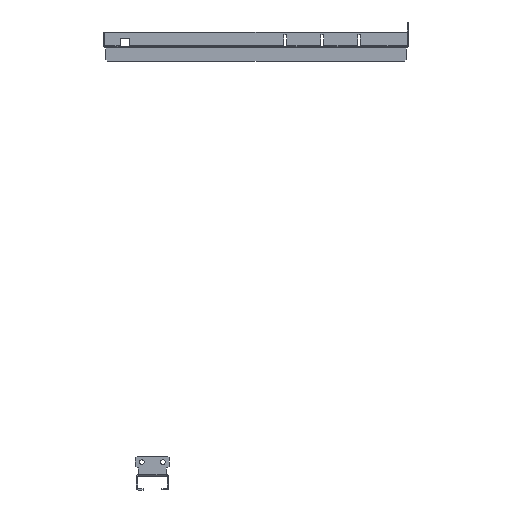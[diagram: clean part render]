
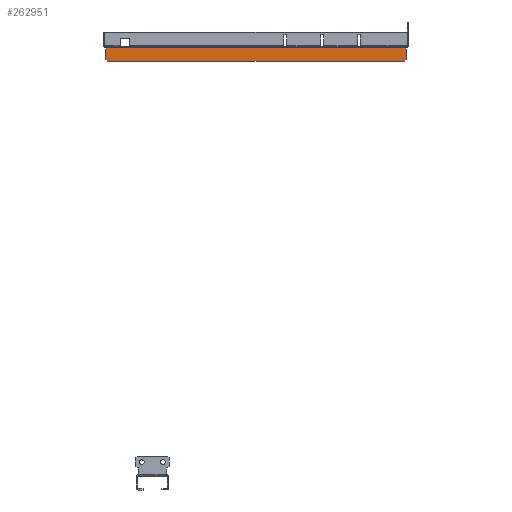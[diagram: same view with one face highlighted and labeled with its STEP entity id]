
A CAD part, front view. The second image highlights one B-rep face of the part: STEP entity #262951.
In plain terms, the highlighted planar face has unit normal (0, -1, 0).
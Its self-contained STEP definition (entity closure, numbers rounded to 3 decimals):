
#173121=CARTESIAN_POINT(' ',(-177.,844.5,-16.));
#173122=VERTEX_POINT(' ',#173121);
#173136=CARTESIAN_POINT(' ',(-177.,844.5,-16.));
#173141=DIRECTION(' ',(0.,0.,1.));
#173146=VECTOR(' ',#173141,1.);
#173151=LINE('',#173136,#173146);
#173156=CARTESIAN_POINT(' ',(-177.,844.5,-2.1));
#173157=VERTEX_POINT(' ',#173156);
#173161=EDGE_CURVE(' ',#173122,#173157,#173151,.T.);
#173346=CARTESIAN_POINT(' ',(-177.,844.5,-2.1));
#173351=DIRECTION(' ',(1.,0.,0.));
#173356=VECTOR(' ',#173351,1.);
#173361=LINE('',#173346,#173356);
#173366=CARTESIAN_POINT(' ',(177.,844.5,-2.1));
#173367=VERTEX_POINT(' ',#173366);
#173371=EDGE_CURVE(' ',#173157,#173367,#173361,.T.);
#173466=CARTESIAN_POINT(' ',(177.,844.5,-2.1));
#173471=DIRECTION(' ',(0.,0.,-1.));
#173476=VECTOR(' ',#173471,1.);
#173481=LINE('',#173466,#173476);
#173486=CARTESIAN_POINT(' ',(177.,844.5,-16.));
#173487=VERTEX_POINT(' ',#173486);
#173491=EDGE_CURVE(' ',#173367,#173487,#173481,.T.);
#262766=CARTESIAN_POINT(' ',(-175.,844.5,-18.));
#262767=VERTEX_POINT(' ',#262766);
#262781=CARTESIAN_POINT(' ',(-177.,844.5,-16.));
#262786=DIRECTION(' ',(0.707,0.,-0.707));
#262791=VECTOR(' ',#262786,1.);
#262796=LINE('',#262781,#262791);
#262801=EDGE_CURVE(' ',#173122,#262767,#262796,.T.);
#262831=DIRECTION(' ',(0.,-1.,0.));
#262836=CARTESIAN_POINT(' ',(-177.,844.5,-2.1));
#262841=DIRECTION(' ',(0.,0.,-1.));
#262846=AXIS2_PLACEMENT_3D(' ',#262836,#262831,#262841);
#262851=PLANE('NONE',#262846);
#262856=ORIENTED_EDGE(' ',*,*,#173161,.F.);
#262861=ORIENTED_EDGE(' ',*,*,#262801,.T.);
#262866=CARTESIAN_POINT(' ',(175.,844.5,-18.));
#262871=DIRECTION(' ',(-1.,0.,0.));
#262876=VECTOR(' ',#262871,1.);
#262881=LINE('',#262866,#262876);
#262886=CARTESIAN_POINT(' ',(175.,844.5,-18.));
#262887=VERTEX_POINT(' ',#262886);
#262891=EDGE_CURVE(' ',#262887,#262767,#262881,.T.);
#262896=ORIENTED_EDGE(' ',*,*,#262891,.F.);
#262901=CARTESIAN_POINT(' ',(175.,844.5,-18.));
#262906=DIRECTION(' ',(0.707,0.,0.707));
#262911=VECTOR(' ',#262906,1.);
#262916=LINE('',#262901,#262911);
#262921=EDGE_CURVE(' ',#262887,#173487,#262916,.T.);
#262926=ORIENTED_EDGE(' ',*,*,#262921,.T.);
#262931=ORIENTED_EDGE(' ',*,*,#173491,.F.);
#262936=ORIENTED_EDGE(' ',*,*,#173371,.F.);
#262941=EDGE_LOOP(' ',(#262856,#262861,#262896,#262926,#262931,#262936));
#262946=FACE_OUTER_BOUND(' ',#262941,.T.);
#262951=ADVANCED_FACE('NONE',(#262946),#262851,.T.);
